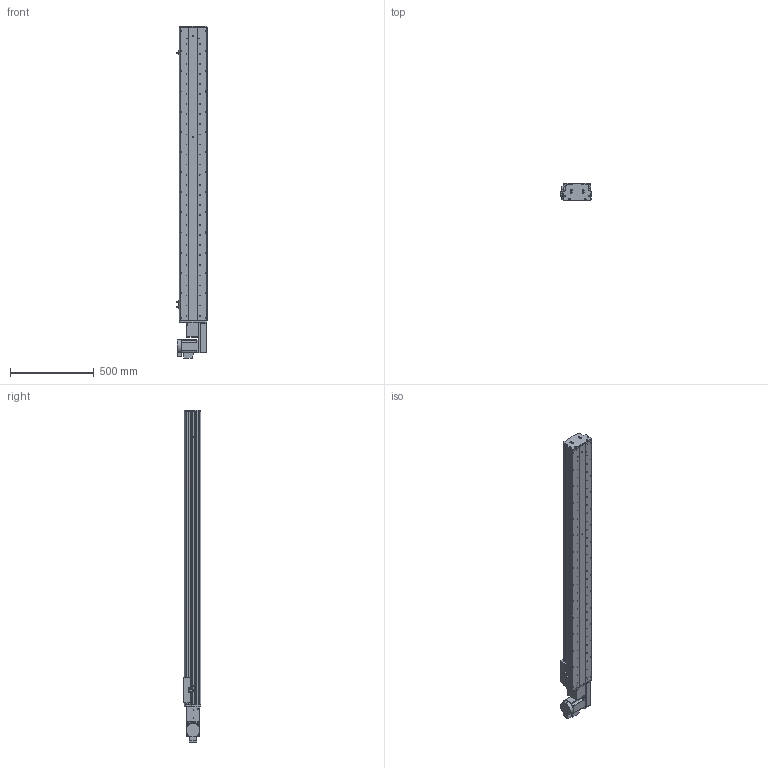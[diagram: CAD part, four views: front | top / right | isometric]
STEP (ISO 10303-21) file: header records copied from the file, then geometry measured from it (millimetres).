
FILE_DESCRIPTION (( 'STEP AP214' ), '1' );
FILE_NAME ('KSD165B-S1500-MRB-CM.STEP', '2017-10-16T09:09:12', ( '微软用户' ), ( '微软中国' ), 'SwSTEP 2.0', 'SolidWorks 2014', '' );
FILE_SCHEMA (( 'AUTOMOTIVE_DESIGN' ));
Length unit declared in the file: millimetre
Products named in the file (17): KSD165耀郪-ヶ傷啣1-肮祭湍; KSD165模组-后端板1-同步带; KSD165模组-同步带滑动座-最新版; KSD165B-S1500-MRB-CM; HTPA26S5M250-A-H8 750W萇儂蚚; HTPA26S5M250-A-H8 400W萇儂蚚 ; 130宽模组马达安装板连板左右折同步带; 130宽模组保护罩上下左右折-同步带; KSD165模组-同步带防尘盖1-1500行程; KSD165模组同步带底板-1500行程; 拸秶雄ん750W侜督萇儂; 165宽马达安装板同步带右; U倰嫖萇假蚾璃; U倰嫖萇EEㄜSX672; 覜茼え68遵圉猾敕; KSD165模组-同步带-防撞垫2; KSD165模组同步带-防撞垫1
Assembly tree (20 placements, depth 2):
  KSD165B-S1500-MRB-CM
    KSD165模组-同步带滑动座-最新版
    KSD165模组-后端板1-同步带
    KSD165耀郪-ヶ傷啣1-肮祭湍
    KSD165模组同步带-防撞垫1
    KSD165模组-同步带-防撞垫2
    覜茼え68遵圉猾敕
    U倰嫖萇EEㄜSX672  x3
    U倰嫖萇假蚾璃  x3
    165宽马达安装板同步带右
    拸秶雄ん750W侜督萇儂
    KSD165模组同步带底板-1500行程
    KSD165模组-同步带防尘盖1-1500行程
    130宽模组保护罩上下左右折-同步带
    130宽模组马达安装板连板左右折同步带
    HTPA26S5M250-A-H8 400W萇儂蚚 
    HTPA26S5M250-A-H8 750W萇儂蚚
Bounding box: 178.7 x 104 x 1977.5 mm (x, y, z)
Volume: 10173715.1 mm3; surface area: 2371683.5 mm2
Topology: 21 solids, 21 shells, 2047 faces, 5796 edges, 3788 vertices
Faces by surface type: cylinder 1339, plane 596, cone 112
Entity records: 67332 total; most frequent: CARTESIAN_POINT 13804, DIRECTION 10992, ORIENTED_EDGE 10252, EDGE_CURVE 5126, AXIS2_PLACEMENT_3D 4326, VERTEX_POINT 3380, CIRCLE 2476, VECTOR 2340
